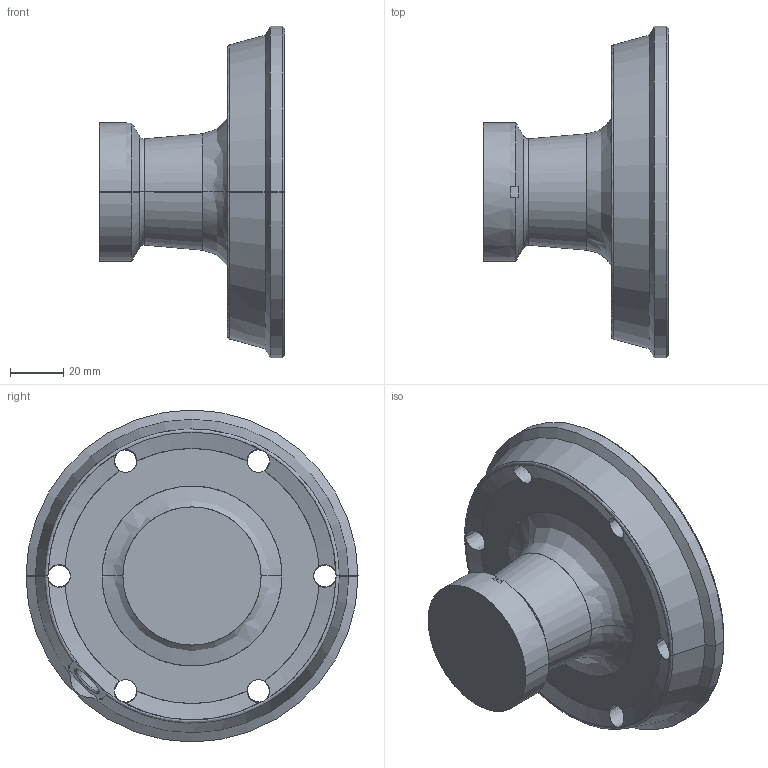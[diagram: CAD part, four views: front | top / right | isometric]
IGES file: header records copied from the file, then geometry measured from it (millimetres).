
Start section: SolidWorks IGES file using analytic representation for surfaces
Global section: file name: C:\Data\SAP_DOC\_2016-Q4_Lättmodeller RobCal\CAD Model_IRB4600_Rev04\IRB4600_45kg-205_IRC5_rev04\IRB4600_45kg-205_IRC5_rev04_IRC5_IGES_j\IRB4600_45kg-205_LINK6_CAD_rev04.IGS; native system: SolidWorks 2014; preprocessor: SolidWorks 2014; author: SEMAAXM; date: 161206.113118; units: millimetre
Bounding box: 70 x 125 x 125 mm (x, y, z)
Surface area: 43365.3 mm2 (no closed solid volume)
Topology: 0 solids, 0 shells, 85 faces, 1479 edges, 1477 vertices
Faces by surface type: revolution 62, bspline 23
